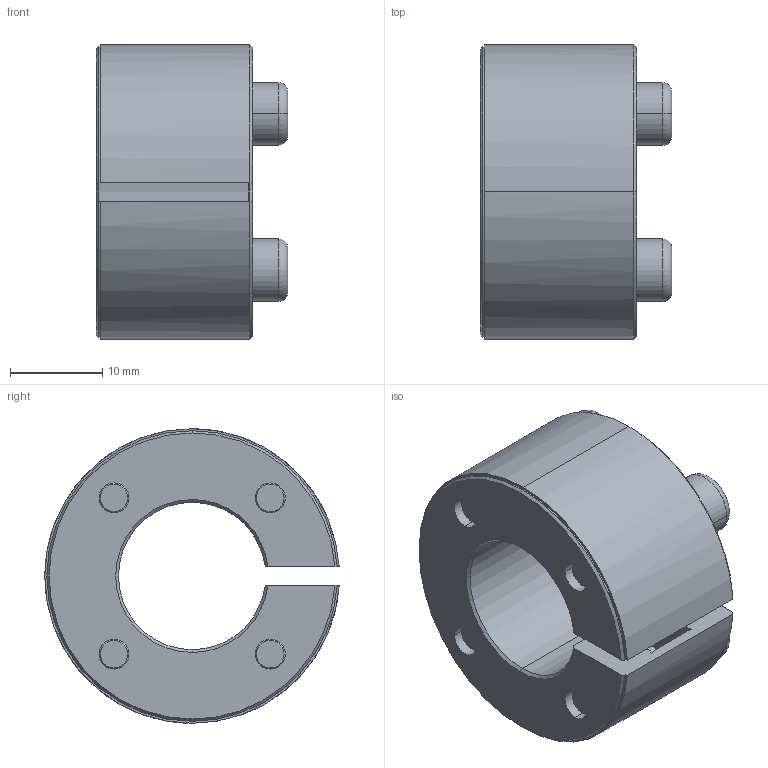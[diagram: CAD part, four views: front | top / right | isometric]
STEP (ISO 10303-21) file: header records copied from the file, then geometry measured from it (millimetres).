
FILE_DESCRIPTION (( 'STEP AP214' ), '1' );
FILE_NAME ('SAPL-E-16X32.STEP', '2024-07-12T02:06:01', ( '决扁浅何厘' ), ( '' ), 'SwSTEP 2.0', 'SolidWorks 2024', '' );
FILE_SCHEMA (( 'AUTOMOTIVE_DESIGN' ));
Length unit declared in the file: millimetre
Products named in the file (1): SAPL-E-16X32
Bounding box: 20.8 x 31.97 x 32 mm (x, y, z)
Volume: 8071.4 mm3; surface area: 6864 mm2
Topology: 1 solids, 1 shells, 139 faces, 333 edges, 212 vertices
Faces by surface type: cylinder 48, plane 48, cone 35, torus 8
Entity records: 4166 total; most frequent: CARTESIAN_POINT 801, DIRECTION 734, ORIENTED_EDGE 666, EDGE_CURVE 333, AXIS2_PLACEMENT_3D 290, VERTEX_POINT 212, EDGE_LOOP 169, LINE 154
